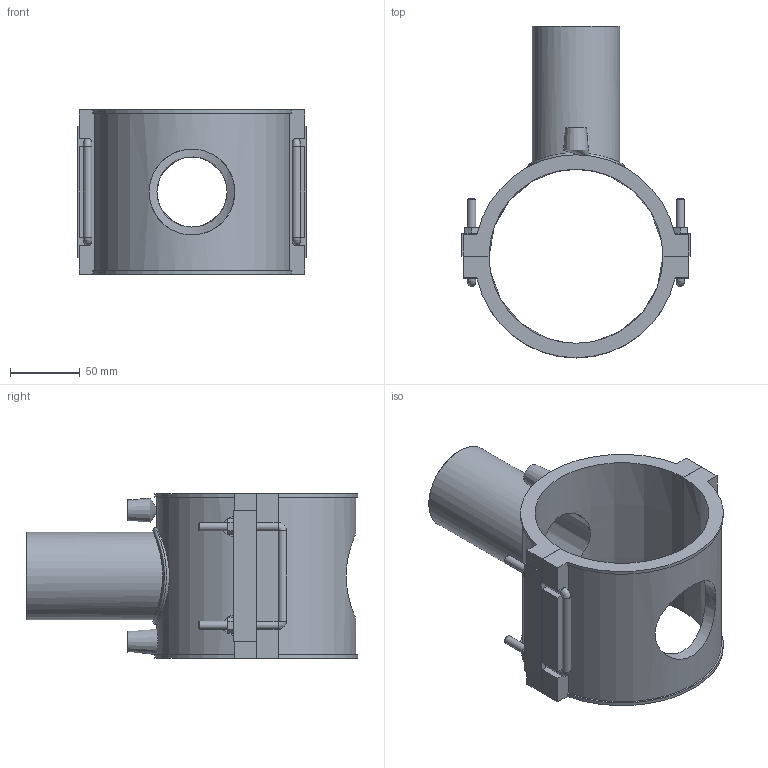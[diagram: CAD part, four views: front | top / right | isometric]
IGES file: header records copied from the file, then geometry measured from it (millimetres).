
Global section: file name: 495804125063.ipt; native system: Autodesk Inventor 2015; preprocessor: unknown; author: KIM; date: 20180426.120842; units: millimetre
Bounding box: 164 x 238.43 x 118 mm (x, y, z)
Volume: 606701.6 mm3; surface area: 161310.2 mm2
Topology: 2 solids, 2 shells, 133 faces, 340 edges, 214 vertices
Faces by surface type: plane 85, cylinder 22, revolution 10, bspline 9, cone 7
Full cylindrical faces by diameter (mm): 4 x2, 6 x10, 63 x1, 69.3 x1
